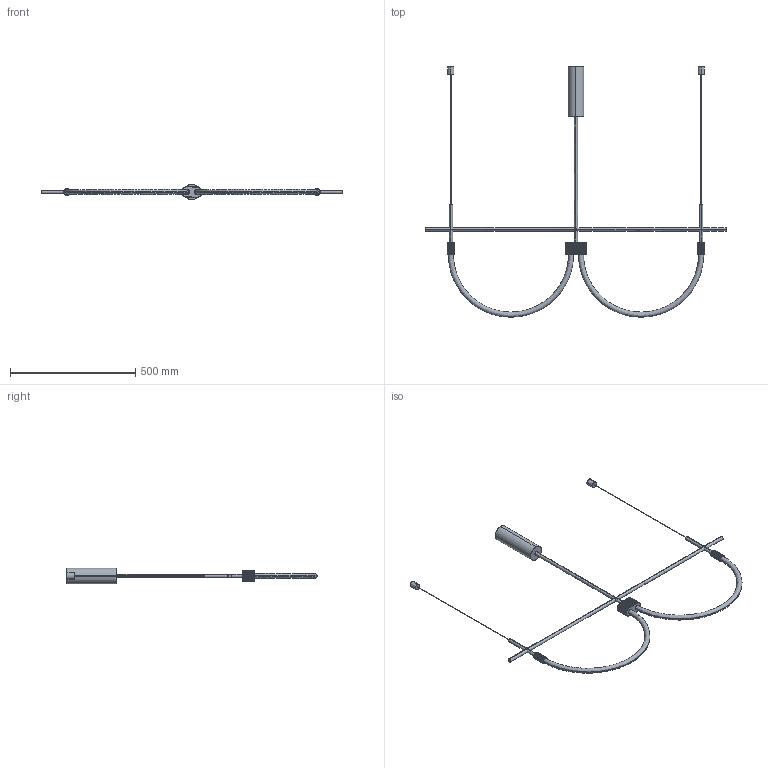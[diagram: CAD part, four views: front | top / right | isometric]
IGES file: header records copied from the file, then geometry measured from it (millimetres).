
Start section: SolidWorks IGES file using analytic representation for surfaces
Global section: file name: C:\Users\Agustin\Desktop\SEPT 2024\PULPO\archivos catalogo\CRAM_C13_2.IGS; native system: SolidWorks 2018; preprocessor: SolidWorks 2018; author: Agustin; date: 240510.170841; units: millimetre
Bounding box: 1200 x 999.77 x 62 mm (x, y, z)
Surface area: 280225.9 mm2 (no closed solid volume)
Topology: 0 solids, 0 shells, 492 faces, 3774 edges, 3774 vertices
Faces by surface type: bspline 382, revolution 110
